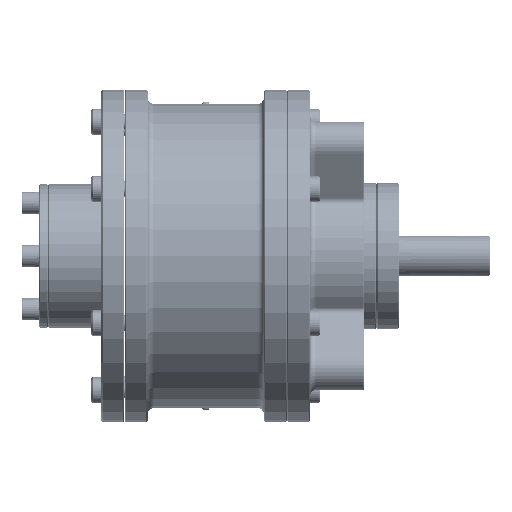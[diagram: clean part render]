
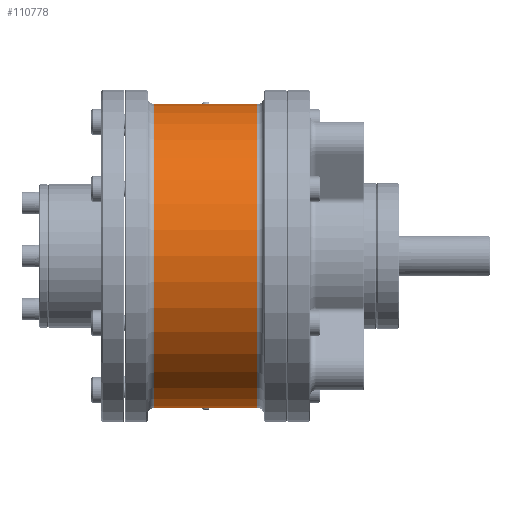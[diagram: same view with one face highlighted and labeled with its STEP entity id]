
A CAD part, front view. The second image highlights one B-rep face of the part: STEP entity #110778.
In plain terms, the highlighted cylindrical face has radius 59.5 mm (diameter 119 mm), a partial arc.
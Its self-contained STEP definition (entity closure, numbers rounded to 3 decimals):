
#2879 = EDGE_CURVE ( 'NONE', #43776, #88601, #16046, .T. ) ;
#3068 = DIRECTION ( 'NONE',  ( 1., 0., 0. ) ) ;
#4217 = CARTESIAN_POINT ( 'NONE',  ( 17.5, 0., -59.5 ) ) ;
#5734 = DIRECTION ( 'NONE',  ( 1., 0., 0. ) ) ;
#9286 = ORIENTED_EDGE ( 'NONE', *, *, #85453, .F. ) ;
#9751 = VECTOR ( 'NONE', #5734, 1000. ) ;
#10991 = AXIS2_PLACEMENT_3D ( 'NONE', #160119, #70771, #174741 ) ;
#16046 = LINE ( 'NONE', #19128, #59794 ) ;
#18281 = DIRECTION ( 'NONE',  ( 1., 0., 0. ) ) ;
#19128 = CARTESIAN_POINT ( 'NONE',  ( -15., 0., -59.5 ) ) ;
#20690 = DIRECTION ( 'NONE',  ( 0., 0., -1. ) ) ;
#21451 = ORIENTED_EDGE ( 'NONE', *, *, #146928, .T. ) ;
#22555 = ORIENTED_EDGE ( 'NONE', *, *, #84175, .F. ) ;
#24330 = EDGE_LOOP ( 'NONE', ( #22555, #207268, #212971, #57740, #21451, #120705, #9286, #38008 ) ) ;
#24618 = DIRECTION ( 'NONE',  ( -1., 0., 0. ) ) ;
#26869 = DIRECTION ( 'NONE',  ( 0., 0., -1. ) ) ;
#29934 = CARTESIAN_POINT ( 'NONE',  ( 17.5, 0., 59.5 ) ) ;
#38008 = ORIENTED_EDGE ( 'NONE', *, *, #131327, .F. ) ;
#39959 = CARTESIAN_POINT ( 'NONE',  ( -17.5, 0., 59.5 ) ) ;
#42908 = CARTESIAN_POINT ( 'NONE',  ( 20.25, 0., 0. ) ) ;
#43776 = VERTEX_POINT ( 'NONE', #116865 ) ;
#47211 = VERTEX_POINT ( 'NONE', #39959 ) ;
#51077 = EDGE_CURVE ( 'NONE', #194607, #67841, #132843, .T. ) ;
#57740 = ORIENTED_EDGE ( 'NONE', *, *, #2879, .T. ) ;
#59794 = VECTOR ( 'NONE', #140980, 1000. ) ;
#61454 = CIRCLE ( 'NONE', #190470, 59.5 ) ;
#67841 = VERTEX_POINT ( 'NONE', #74011 ) ;
#68502 = LINE ( 'NONE', #158578, #92989 ) ;
#70419 = CARTESIAN_POINT ( 'NONE',  ( -20.25, 0., 59.5 ) ) ;
#70771 = DIRECTION ( 'NONE',  ( 1., 0., 0. ) ) ;
#74011 = CARTESIAN_POINT ( 'NONE',  ( 20.25, 0., 59.5 ) ) ;
#75123 = CARTESIAN_POINT ( 'NONE',  ( -22.75, 0., 59.5 ) ) ;
#81288 = CYLINDRICAL_SURFACE ( 'NONE', #10991, 59.5 ) ;
#83773 = VERTEX_POINT ( 'NONE', #29934 ) ;
#84109 = VECTOR ( 'NONE', #99347, 1000. ) ;
#84175 = EDGE_CURVE ( 'NONE', #117540, #47211, #122810, .T. ) ;
#85453 = EDGE_CURVE ( 'NONE', #83773, #67841, #102489, .T. ) ;
#88601 = VERTEX_POINT ( 'NONE', #4217 ) ;
#92989 = VECTOR ( 'NONE', #18281, 1000. ) ;
#94088 = CARTESIAN_POINT ( 'NONE',  ( -22.75, 0., -59.5 ) ) ;
#95455 = VECTOR ( 'NONE', #187709, 1000. ) ;
#99347 = DIRECTION ( 'NONE',  ( 1., 0., 0. ) ) ;
#102489 = LINE ( 'NONE', #75123, #9751 ) ;
#110778 = ADVANCED_FACE ( 'NONE', ( #174246 ), #81288, .T. ) ;
#113974 = CARTESIAN_POINT ( 'NONE',  ( -20.25, 0., -59.5 ) ) ;
#116865 = CARTESIAN_POINT ( 'NONE',  ( -17.5, 0., -59.5 ) ) ;
#117540 = VERTEX_POINT ( 'NONE', #70419 ) ;
#120705 = ORIENTED_EDGE ( 'NONE', *, *, #51077, .T. ) ;
#122810 = LINE ( 'NONE', #223473, #95455 ) ;
#127900 = LINE ( 'NONE', #150502, #84109 ) ;
#131327 = EDGE_CURVE ( 'NONE', #47211, #83773, #68502, .T. ) ;
#132843 = CIRCLE ( 'NONE', #225516, 59.5 ) ;
#135151 = VECTOR ( 'NONE', #214762, 1000. ) ;
#139876 = VERTEX_POINT ( 'NONE', #113974 ) ;
#140980 = DIRECTION ( 'NONE',  ( 1., 0., 0. ) ) ;
#146928 = EDGE_CURVE ( 'NONE', #88601, #194607, #217137, .T. ) ;
#150502 = CARTESIAN_POINT ( 'NONE',  ( -22.75, 0., -59.5 ) ) ;
#158578 = CARTESIAN_POINT ( 'NONE',  ( -15., 0., 59.5 ) ) ;
#160119 = CARTESIAN_POINT ( 'NONE',  ( -22.75, 0., 0. ) ) ;
#174246 = FACE_OUTER_BOUND ( 'NONE', #24330, .T. ) ;
#174741 = DIRECTION ( 'NONE',  ( 0., 0., -1. ) ) ;
#178674 = CARTESIAN_POINT ( 'NONE',  ( -20.25, 0., 0. ) ) ;
#184327 = EDGE_CURVE ( 'NONE', #139876, #43776, #127900, .T. ) ;
#187709 = DIRECTION ( 'NONE',  ( 1., 0., 0. ) ) ;
#190470 = AXIS2_PLACEMENT_3D ( 'NONE', #178674, #3068, #20690 ) ;
#194607 = VERTEX_POINT ( 'NONE', #203027 ) ;
#203027 = CARTESIAN_POINT ( 'NONE',  ( 20.25, 0., -59.5 ) ) ;
#207268 = ORIENTED_EDGE ( 'NONE', *, *, #211534, .T. ) ;
#211534 = EDGE_CURVE ( 'NONE', #117540, #139876, #61454, .T. ) ;
#212971 = ORIENTED_EDGE ( 'NONE', *, *, #184327, .T. ) ;
#214762 = DIRECTION ( 'NONE',  ( 1., 0., 0. ) ) ;
#217137 = LINE ( 'NONE', #94088, #135151 ) ;
#223473 = CARTESIAN_POINT ( 'NONE',  ( -22.75, 0., 59.5 ) ) ;
#225516 = AXIS2_PLACEMENT_3D ( 'NONE', #42908, #24618, #26869 ) ;
